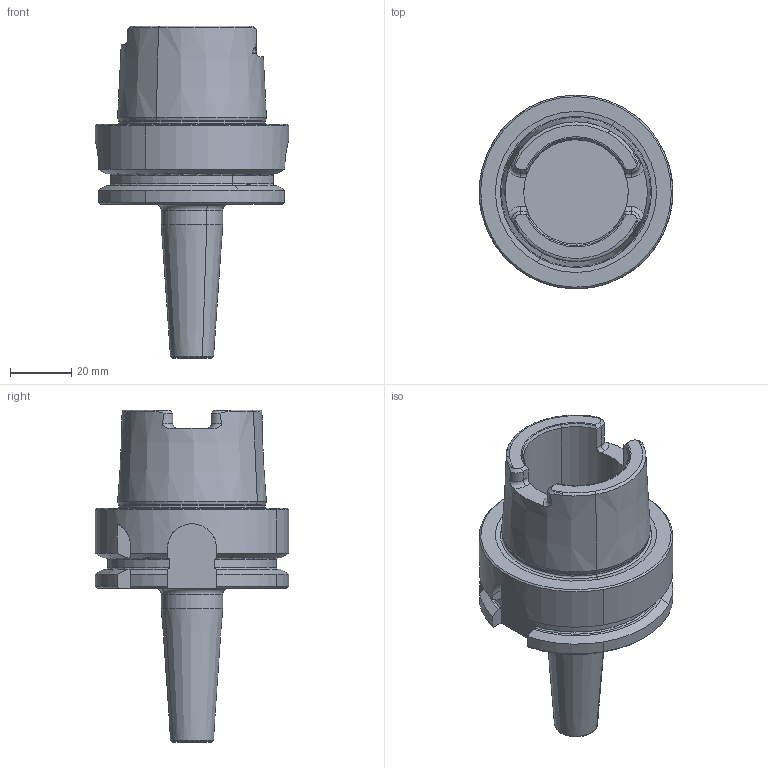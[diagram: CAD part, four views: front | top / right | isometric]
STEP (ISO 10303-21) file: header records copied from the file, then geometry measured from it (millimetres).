
FILE_DESCRIPTION(('CATIA V5 STEP','CAx-IF Rec.Pracs.--- Model Styling and Organization---1.2---2011-12-15'),'2;1');
FILE_NAME('\\nas01\drv1\utils\eitdev\rte\eit\transmagicconvert\db\out\4504448 L.stp','2014-03-23T11:57:26+00:00',('none'),('none'),'CATIA Version 5 Release 21 SP 5 (IN-10)','CATIA V5 STEP AP214','none');
FILE_SCHEMA(('AUTOMOTIVE_DESIGN { 1 0 10303 214 1 1 1 1 }'));
Length unit declared in the file: millimetre
Products named in the file (1): 60972518_0 Holder-Tool HSK A 63 SRK 8X50
Bounding box: 63 x 63 x 108 mm (x, y, z)
Volume: 102604.3 mm3; surface area: 23524.9 mm2
Topology: 1 solids, 1 shells, 136 faces, 351 edges, 220 vertices
Faces by surface type: plane 41, cone 35, cylinder 32, torus 28
Entity records: 4303 total; most frequent: CARTESIAN_POINT 1369, ORIENTED_EDGE 702, DIRECTION 434, EDGE_CURVE 351, AXIS2_PLACEMENT_3D 232, VERTEX_POINT 220, CIRCLE 151, EDGE_LOOP 139
